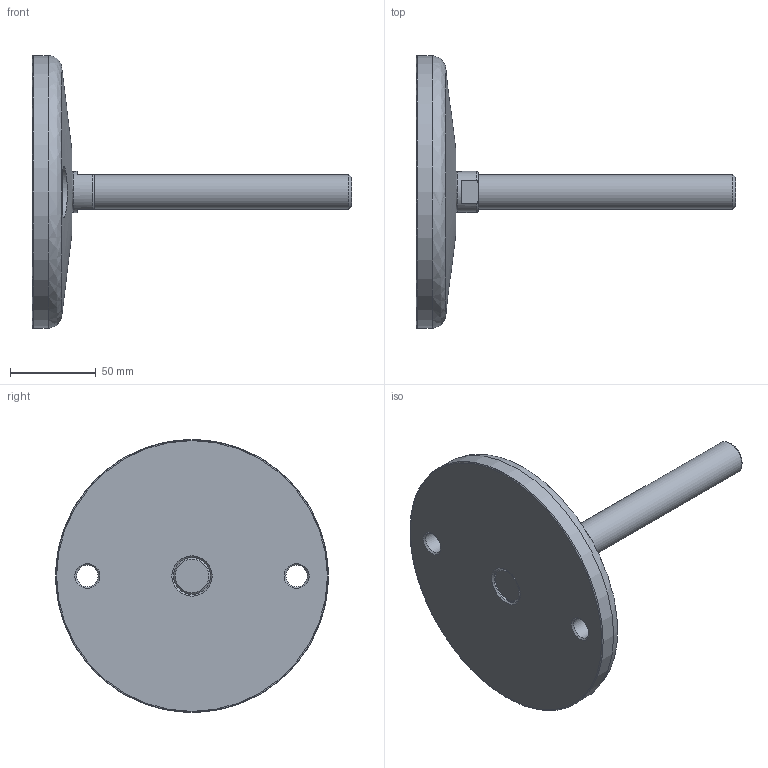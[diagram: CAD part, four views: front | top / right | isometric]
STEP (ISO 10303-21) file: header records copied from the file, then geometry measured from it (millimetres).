
FILE_DESCRIPTION(('STEP AP203'),'2;1');
FILE_NAME('12472.stp','2016-03-22T08:54:26',(''),(''),'2008.1.107','THINKDESIGN','');
FILE_SCHEMA(('CONFIG_CONTROL_DESIGN'));
Length unit declared in the file: millimetre
Bounding box: 186 x 159 x 159 mm (x, y, z)
Volume: 426228.7 mm3; surface area: 62306.9 mm2
Topology: 4 solids, 4 shells, 38 faces, 97 edges, 70 vertices
Faces by surface type: bspline 15, plane 14, cylinder 9
Full cylindrical faces by diameter (mm): 12.5 x2, 20 x1, 21.5 x2, 24 x1, 159 x1
Entity records: 3004 total; most frequent: CARTESIAN_POINT 1866, DIRECTION 203, ORIENTED_EDGE 192, EDGE_CURVE 96, AXIS2_PLACEMENT_3D 89, VERTEX_POINT 68, CIRCLE 66, EDGE_LOOP 46
